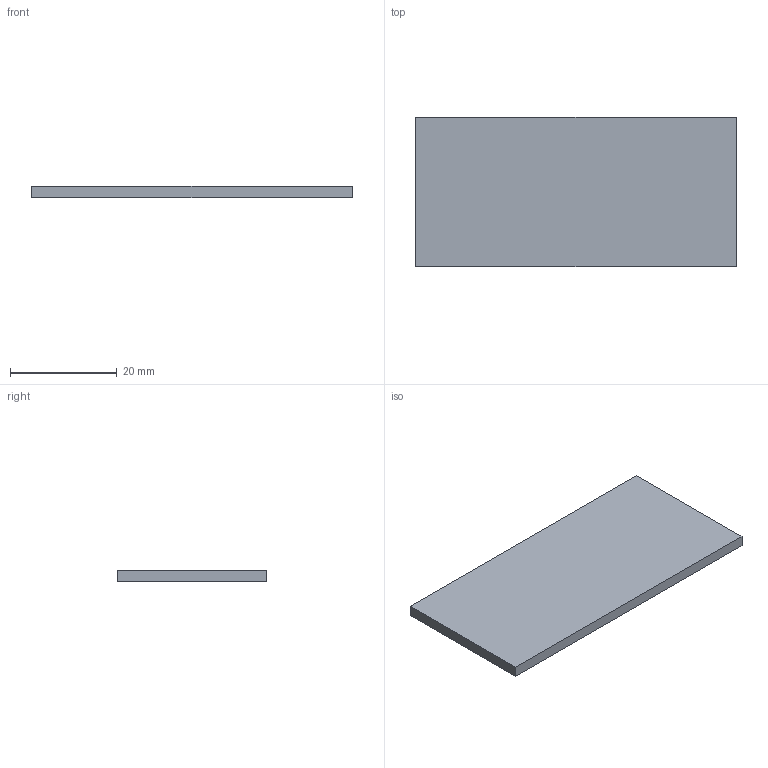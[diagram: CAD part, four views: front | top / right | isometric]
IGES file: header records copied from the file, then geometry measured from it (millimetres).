
Start section:  PTC IGES file: j5d-lenz.igs
Global section: file name: j5d-lenz.igs; native system: Creo Parametric by PTC Inc.; preprocessor: 2020184; author: VX25986; organization: Unknown; date: 20210323.200201; units: millimetre
Bounding box: 60 x 28 x 2.1 mm (x, y, z)
Surface area: 3729.6 mm2 (no closed solid volume)
Topology: 0 solids, 0 shells, 6 faces, 24 edges, 24 vertices
Faces by surface type: bspline 6
